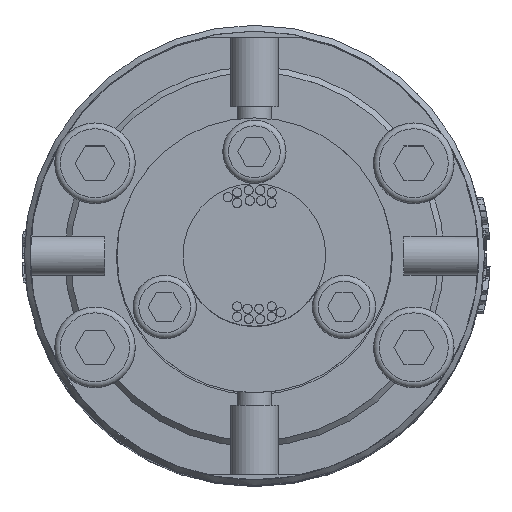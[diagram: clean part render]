
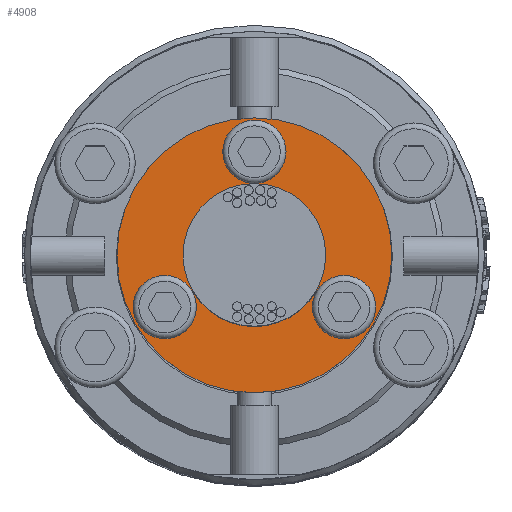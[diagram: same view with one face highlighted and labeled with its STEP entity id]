
A CAD part, top view. The second image highlights one B-rep face of the part: STEP entity #4908.
In plain terms, the highlighted planar face has unit normal (0, 0, 1).
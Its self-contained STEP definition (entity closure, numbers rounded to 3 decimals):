
#462=FACE_BOUND('',#7435,.T.);
#463=FACE_BOUND('',#7436,.T.);
#464=FACE_BOUND('',#7437,.T.);
#465=FACE_BOUND('',#7438,.T.);
#466=FACE_BOUND('',#7439,.T.);
#1236=PLANE('',#22856);
#4908=ADVANCED_FACE('',(#462,#463,#464,#465,#466),#1236,.T.);
#7435=EDGE_LOOP('',(#16123));
#7436=EDGE_LOOP('',(#16124));
#7437=EDGE_LOOP('',(#16125));
#7438=EDGE_LOOP('',(#16126));
#7439=EDGE_LOOP('',(#16127));
#16123=ORIENTED_EDGE('',*,*,#21332,.F.);
#16124=ORIENTED_EDGE('',*,*,#21346,.F.);
#16125=ORIENTED_EDGE('',*,*,#21367,.F.);
#16126=ORIENTED_EDGE('',*,*,#21497,.F.);
#16127=ORIENTED_EDGE('',*,*,#21496,.F.);
#18258=VERTEX_POINT('',#44773);
#18266=VERTEX_POINT('',#44804);
#18281=VERTEX_POINT('',#44850);
#18376=VERTEX_POINT('',#45146);
#18377=VERTEX_POINT('',#45149);
#21332=EDGE_CURVE('',#18258,#18258,#21753,.T.);
#21346=EDGE_CURVE('',#18266,#18266,#21755,.T.);
#21367=EDGE_CURVE('',#18281,#18281,#21758,.T.);
#21496=EDGE_CURVE('',#18376,#18376,#21797,.T.);
#21497=EDGE_CURVE('',#18377,#18377,#21798,.T.);
#21753=CIRCLE('',#22718,2.75);
#21755=CIRCLE('',#22729,2.75);
#21758=CIRCLE('',#22742,2.75);
#21797=CIRCLE('',#22853,11.95);
#21798=CIRCLE('',#22855,6.2);
#22718=AXIS2_PLACEMENT_3D('',#44772,#25754,#25755);
#22729=AXIS2_PLACEMENT_3D('',#44803,#25788,#25789);
#22742=AXIS2_PLACEMENT_3D('',#44849,#25832,#25833);
#22853=AXIS2_PLACEMENT_3D('',#45145,#26144,#26145);
#22855=AXIS2_PLACEMENT_3D('',#45148,#26148,#26149);
#22856=AXIS2_PLACEMENT_3D('',#45150,#26150,#26151);
#25754=DIRECTION('',(0.,0.,1.));
#25755=DIRECTION('',(1.,0.,0.));
#25788=DIRECTION('',(0.,0.,1.));
#25789=DIRECTION('',(-0.5,0.866,0.));
#25832=DIRECTION('',(0.,0.,1.));
#25833=DIRECTION('',(-0.5,-0.866,0.));
#26144=DIRECTION('',(0.,0.,-1.));
#26145=DIRECTION('',(0.,1.,0.));
#26148=DIRECTION('',(0.,0.,1.));
#26149=DIRECTION('',(0.,1.,0.));
#26150=DIRECTION('',(0.,0.,1.));
#26151=DIRECTION('',(0.,1.,0.));
#44772=CARTESIAN_POINT('',(0.,9.,79.5));
#44773=CARTESIAN_POINT('',(2.75,9.,79.5));
#44803=CARTESIAN_POINT('',(-7.794,-4.5,79.5));
#44804=CARTESIAN_POINT('',(-9.169,-2.118,79.5));
#44849=CARTESIAN_POINT('',(7.794,-4.5,79.5));
#44850=CARTESIAN_POINT('',(6.419,-6.882,79.5));
#45145=CARTESIAN_POINT('',(0.,0.,79.5));
#45146=CARTESIAN_POINT('',(0.,11.95,79.5));
#45148=CARTESIAN_POINT('',(0.,0.,79.5));
#45149=CARTESIAN_POINT('',(0.,6.2,79.5));
#45150=CARTESIAN_POINT('',(0.,0.,79.5));
